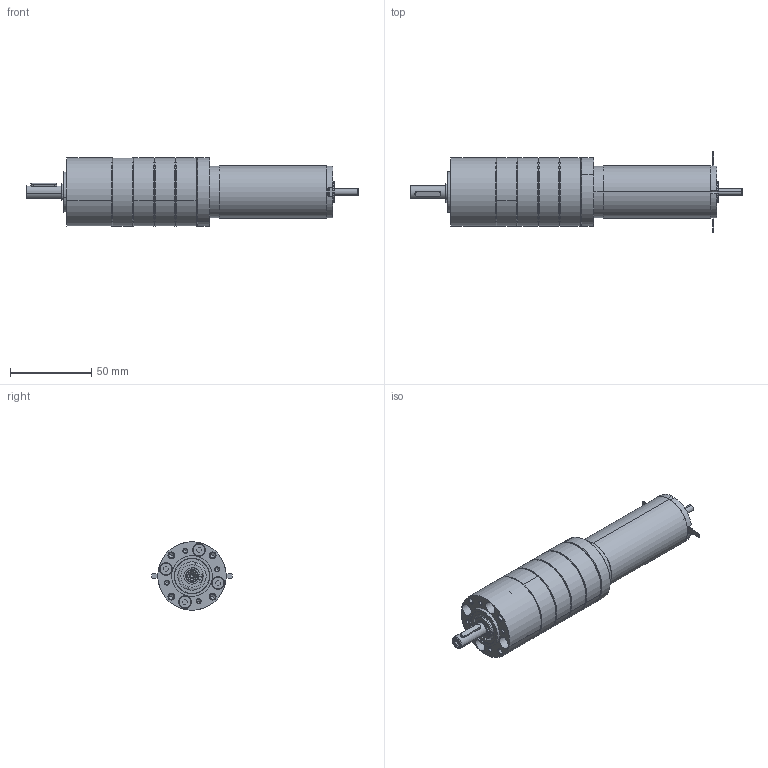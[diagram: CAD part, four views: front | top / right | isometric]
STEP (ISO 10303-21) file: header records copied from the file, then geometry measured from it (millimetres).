
FILE_DESCRIPTION (( 'STEP AP214' ), '1' );
FILE_NAME ('DCX32LG + PM42-4 étages.STEP', '2014-10-15T09:17:37', ( '' ), ( '' ), 'SwSTEP 2.0', 'SolidWorks 2013', '' );
FILE_SCHEMA (( 'AUTOMOTIVE_DESIGN' ));
Length unit declared in the file: millimetre
Products named in the file (36): D625-608-2RS_10; 1228610; 8007595_LAGERFLANSCH_10; 5; Coté moteur^PM42 pour DCX32LG; 4; MOTORFLANSCH_1240243; 3; 8012556_MOTORRITZEL_Z17_1_3; 2; 8001288_ANLAUFSCHEIBE_1ST_9; 1; 8007606_DICHTRING_10; P8209_8007589_ZAHNKRANZ_Z46_10; DCX32LG + PM42-4 étages; DCX32LG; 16; 15; PM42 pour DCX32LG_4 etages; 14; Coté sortie^PM42 pour DCX32LG; 13; SCHRAUBE_1241978_17; 12; 3X3X16_D6885A_11; 11; D471_8X0_8_11; 10; 8001316_ABTRIEB_LK4_KPL_10; 9; 8001305_LAGERBOLZEN_11; 8; VBZ_K7841_ABTRIEB_AF0_11; 7; DIN998_PS_8X14X1_11; 6
Assembly tree (49 placements, depth 5):
  DCX32LG + PM42-4 étages
    DCX32LG
      1
      2
      3
      4
      5
      1228610
      6
      7
      8
      9
      10
      11
      12
      13
      14
      15
      16
    PM42 pour DCX32LG_4 etages
      P8209_8007589_ZAHNKRANZ_Z46_10  x4
      Coté moteur^PM42 pour DCX32LG
        8007606_DICHTRING_10
        8001288_ANLAUFSCHEIBE_1ST_9
        8012556_MOTORRITZEL_Z17_1_3
        MOTORFLANSCH_1240243
      Coté sortie^PM42 pour DCX32LG
        8007595_LAGERFLANSCH_10
        D625-608-2RS_10  x2
        DIN998_PS_8X14X1_11  x2
        8001316_ABTRIEB_LK4_KPL_10
          VBZ_K7841_ABTRIEB_AF0_11
          8001305_LAGERBOLZEN_11  x3
        D471_8X0_8_11
        3X3X16_D6885A_11
        8007606_DICHTRING_10
        SCHRAUBE_1241978_17  x4
      8007606_DICHTRING_10  x3
Bounding box: 204.2 x 49.3 x 42 mm (x, y, z)
Volume: 96093.8 mm3; surface area: 86548.3 mm2
Topology: 41 solids, 67 shells, 2731 faces, 6774 edges, 4220 vertices
Faces by surface type: cylinder 1045, cone 787, plane 783, bspline 116
Entity records: 76476 total; most frequent: CARTESIAN_POINT 15370, DIRECTION 10336, ORIENTED_EDGE 8982, EDGE_CURVE 4519, AXIS2_PLACEMENT_3D 4047, VERTEX_POINT 2746, VECTOR 2242, LINE 2242
